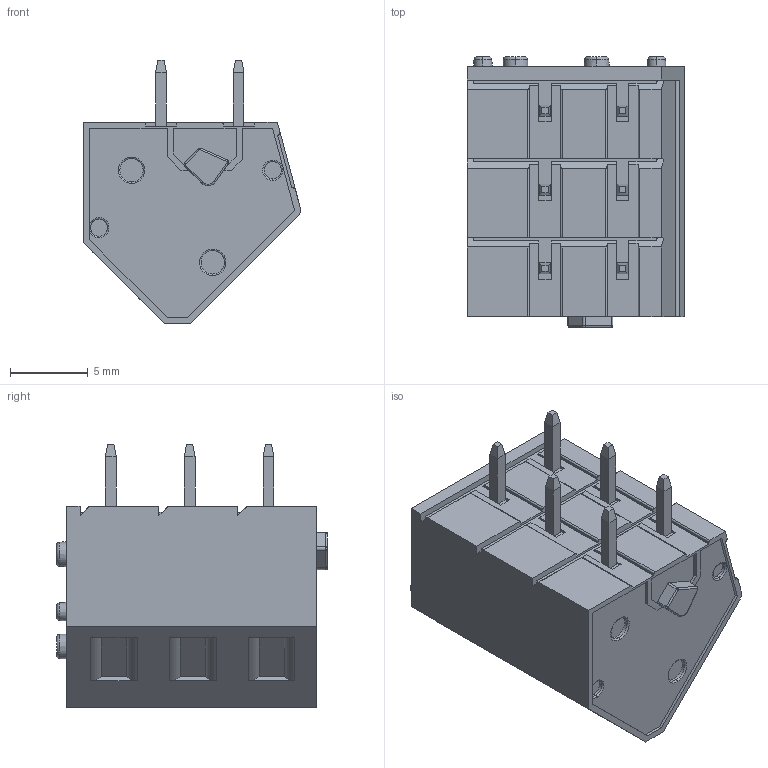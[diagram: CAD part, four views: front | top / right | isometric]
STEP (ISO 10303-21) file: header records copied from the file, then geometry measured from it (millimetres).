
FILE_DESCRIPTION((''),'2;1');
FILE_NAME('3PIN_SW0001','2019-05-24T',('zhenbing.lai'),(''),'CREO PARAMETRIC BY PTC INC, 2016260','CREO PARAMETRIC BY PTC INC, 2016260','');
FILE_SCHEMA(('CONFIG_CONTROL_DESIGN'));
Length unit declared in the file: millimetre
Products named in the file (1): 3PIN_SW0001
Bounding box: 14 x 17.46 x 17 mm (x, y, z)
Volume: 2159.4 mm3; surface area: 1187.7 mm2
Topology: 1 solids, 1 shells, 272 faces, 707 edges, 460 vertices
Faces by surface type: plane 207, cylinder 37, torus 17, bspline 11
Entity records: 8520 total; most frequent: CARTESIAN_POINT 1754, ORIENTED_EDGE 1414, DIRECTION 1354, EDGE_CURVE 707, VECTOR 556, LINE 556, VERTEX_POINT 460, AXIS2_PLACEMENT_3D 399
